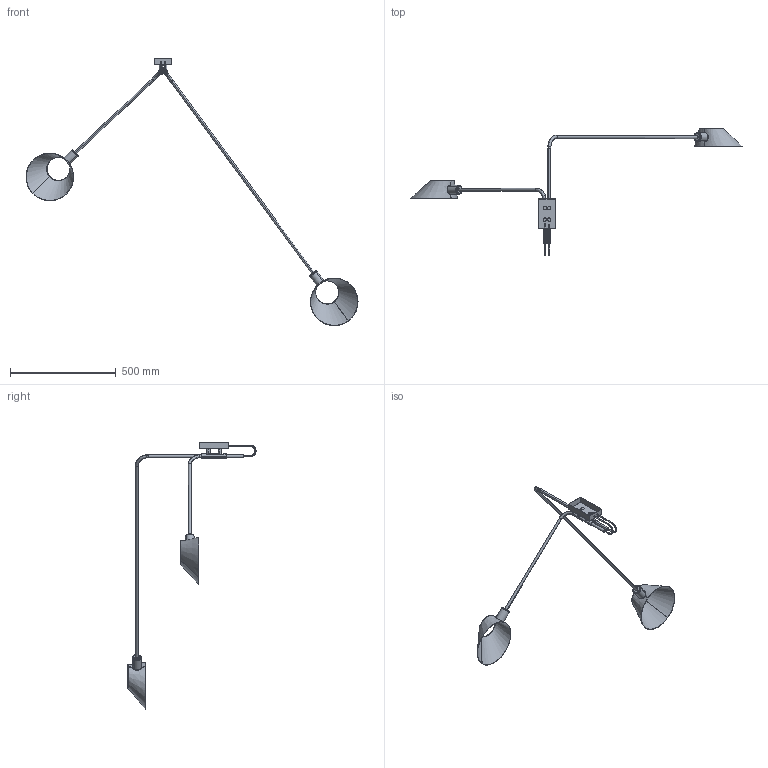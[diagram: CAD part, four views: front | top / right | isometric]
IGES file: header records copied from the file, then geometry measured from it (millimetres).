
Start section: SolidWorks IGES file using analytic representation for surfaces
Global section: file name: C:\Users\Agus\Desktop\A1172 doble + 1122\A1172-2.IGS; native system: SolidWorks 2018; preprocessor: SolidWorks 2018; author: Agus; date: 210326.143235; units: millimetre
Bounding box: 1571.45 x 606.15 x 1265.32 mm (x, y, z)
Surface area: 458001.9 mm2 (no closed solid volume)
Topology: 0 solids, 0 shells, 123 faces, 3162 edges, 3162 vertices
Faces by surface type: bspline 71, revolution 52
